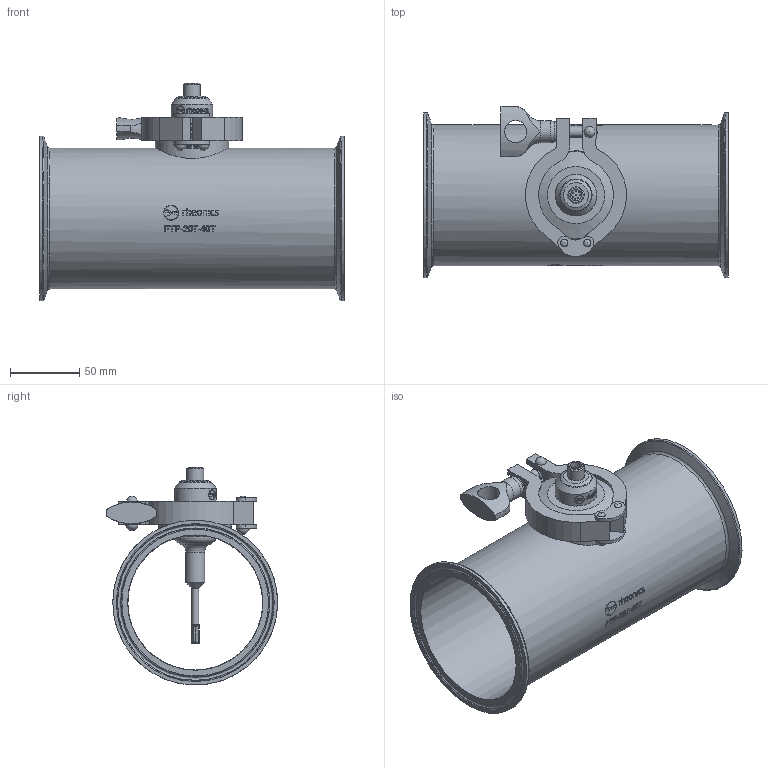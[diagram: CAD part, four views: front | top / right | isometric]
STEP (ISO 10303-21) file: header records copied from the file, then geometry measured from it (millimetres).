
FILE_DESCRIPTION(/* description */ ('Unknown'),/* implementation_level */ '2;1');
FILE_NAME(/* name */ 'SRD-FTP-20T-40T',/* time_stamp */ '2024-12-26T12:34:56-05:00',/* author */ ('Unknown'),/* organization */ ('Unknown'),/* preprocessor_version */ 'ST-DEVELOPER v16.7',/* originating_system */ 'Solid Edge',/* authorisation */ 'Unknown');
FILE_SCHEMA (('AUTOMOTIVE_DESIGN {1 0 10303 214 3 1 1}'));
Length unit declared in the file: millimetre
Products named in the file (5): SRD-FTP-20T-40T; FTP-20T-40T; TC-20T-Seal; SRD-HD-X3-A95-B20T; TC_2inch_Seal_Clamp
Assembly tree (4 placements, depth 2):
  SRD-FTP-20T-40T
    FTP-20T-40T
    TC-20T-Seal
    SRD-HD-X3-A95-B20T
    TC_2inch_Seal_Clamp
Bounding box: 220 x 123.67 x 157.35 mm (x, y, z)
Volume: 263881 mm3; surface area: 191315 mm2
Topology: 4 solids, 4 shells, 817 faces, 2076 edges, 1351 vertices
Faces by surface type: bspline 313, plane 263, cylinder 156, torus 44, cone 26, sphere 15
Full cylindrical faces by diameter (mm): 0.8 x8, 5.019 x1, 7.938 x1, 8 x1, 12 x1, 13.9 x1, 15.873 x1, 16 x1, 30 x2, 50 x1, 50.2 x1, 53 x1, 64 x3, 97.38 x1, 101.6 x1, 119 x2
Entity records: 56221 total; most frequent: CARTESIAN_POINT 33897, ORIENTED_EDGE 3834, DIRECTION 2688, EDGE_CURVE 1917, VERTEX_POINT 1314, EDGE_LOOP 1039, FACE_BOUND 1039, AXIS2_PLACEMENT_3D 955
